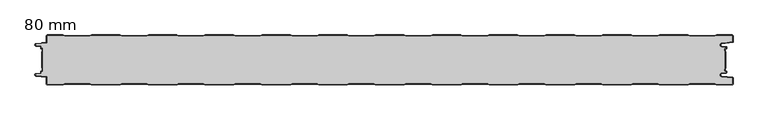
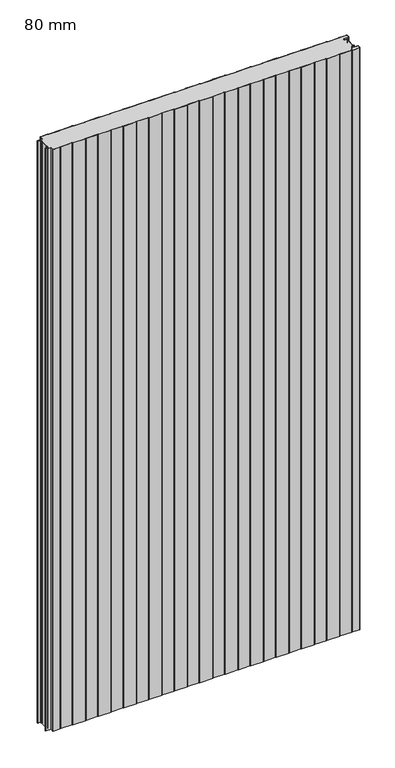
"""IFC4 building model written with IfcOpenShell, lengths in millimetres: plate geometry, HIANSA PANEL - H20.F03.001-PANEL FRIGORÍFICO - PANEL FRIGO - Panel de Muro Cortina : 80 mm."""

from ifc_helpers import new_model, si_unit, point, frame_2d, origin, origin_with_axes, place, context, project, spatial, polyline, circle_curve, trimmed, segment, composite_curve, outline, extrude, source, transform, mapped, element, save


def plate_80_mm_17309635(model_context):
    return source(origin(), model_context, "Body", "SweptSolid", [
        extrude(outline(polyline([(555.9827923, -54.0), (555.9827923, -26.0), (556.4221321, -26.6713576), (556.4221321, -53.3286424), (555.9827923, -54.0)])), origin_with_axes(), (0.0, 0.0, 1.0), 2200.0),
        extrude(outline(polyline([(-538.5172077, -25.9999999), (-538.5172077, -54.0000001), (-539.1172077, -52.9695032), (-539.1172077, -27.0304968), (-538.5172077, -25.9999999)])), origin_with_axes(), (0.0, 0.0, 1.0), 2200.0),
        extrude(outline(composite_curve([segment(polyline([(-370.9360691, -1.5), (-411.0983467, -1.5), (-414.0983467, -0.5), (-458.9360691, -0.5), (-461.9360691, -1.5), (-502.0983467, -1.5), (-505.0983467, -0.5), (-529.9172079, -0.5)]), True, "CONTINUOUS"), segment(trimmed(circle_curve(frame_2d((-529.9172079, -1.6)), 1.1), [point((-529.9172079, -0.5))], [point((-531.0172079, -1.6))], True, "CARTESIAN"), True, "CONTINUOUS"), segment(polyline([(-531.0172079, -1.6), (-531.0172079, -11.7987531)]), True, "CONTINUOUS"), segment(trimmed(circle_curve(frame_2d((-532.0172079, -11.7987531)), 1.0), [point((-531.0172079, -11.7987531))], [point((-531.9177042, -12.7937903))], False, "CARTESIAN"), True, "CONTINUOUS"), segment(polyline([(-531.9177042, -12.7937903), (-548.0592062, -14.4079404)]), True, "CONTINUOUS"), segment(trimmed(circle_curve(frame_2d((-547.9000002, -15.9999999)), 1.6), [point((-548.0592062, -14.4079404))], [point((-548.0592062, -17.5920594))], True, "CARTESIAN"), True, "CONTINUOUS"), segment(polyline([(-548.0592062, -17.5920594), (-541.4177042, -18.2562097)]), True, "CONTINUOUS"), segment(trimmed(circle_curve(frame_2d((-541.5172079, -19.2512469)), 1.0), [point((-541.4177042, -18.2562097))], [point((-540.5172079, -19.2512469))], False, "CARTESIAN"), True, "CONTINUOUS"), segment(polyline([(-540.5172079, -19.2512469), (-540.5172079, -21.5), (-539.0172079, -21.5)]), True, "CONTINUOUS"), segment(trimmed(circle_curve(frame_2d((-539.0172079, -22.5)), 1.0), [point((-539.0172079, -21.5))], [point((-538.0172079, -22.5))], False, "CARTESIAN"), True, "CONTINUOUS"), segment(polyline([(-538.0172079, -22.5), (-538.0172079, -25.1412526), (-538.5172079, -26.0), (-538.5172079, -22.0), (-540.0172079, -22.0)]), True, "CONTINUOUS"), segment(trimmed(circle_curve(frame_2d((-540.0172079, -21.0)), 1.0), [point((-540.0172079, -22.0))], [point((-541.0172079, -21.0))], False, "CARTESIAN"), True, "CONTINUOUS"), segment(polyline([(-541.0172079, -21.0), (-541.0172079, -18.7987531), (-548.1089579, -18.0895783)]), True, "CONTINUOUS"), segment(trimmed(circle_curve(frame_2d((-547.9000002, -16.0000002)), 2.1), [point((-548.1089579, -18.0895783))], [point((-548.108958, -13.9104221))], False, "CARTESIAN"), True, "CONTINUOUS"), segment(polyline([(-548.108958, -13.9104221), (-531.5172079, -12.2512469), (-531.5172079, -1.6)]), True, "CONTINUOUS"), segment(trimmed(circle_curve(frame_2d((-529.9172079, -1.6)), 1.6), [point((-531.5172079, -1.6))], [point((-529.9172079, 0.0))], False, "CARTESIAN"), True, "CONTINUOUS"), segment(polyline([(-529.9172079, 0.0), (-505.0172079, 0.0), (-502.0172079, -1.0), (-462.0172079, -1.0), (-459.0172079, 0.0), (-414.0172079, 0.0), (-411.0172079, -1.0), (-371.0172079, -1.0), (-368.0172079, 0.0), (-323.0172079, 0.0), (-320.0172079, -1.0), (-280.0172079, -1.0), (-277.0172079, 0.0), (-232.0172079, 0.0), (-229.0172079, -1.0), (-189.0172079, -1.0), (-186.0172079, 0.0), (-141.0172079, 0.0), (-138.0172079, -1.0), (-98.0172079, -1.0), (-95.0172079, 0.0), (-50.0172079, 0.0), (-47.0172079, -1.0), (-7.0172079, -1.0), (-4.0172079, 0.0), (40.9827921, 0.0), (43.9827921, -1.0), (83.9827921, -1.0), (86.9827921, 0.0), (131.9827921, 0.0), (134.9827921, -1.0), (174.9827921, -1.0), (177.9827921, 0.0), (222.9827921, 0.0), (225.9827921, -1.0), (265.9827921, -1.0), (268.9827921, 0.0), (313.9827921, 0.0), (316.9827921, -1.0), (356.9827921, -1.0), (359.9827921, 0.0), (404.9827921, 0.0), (407.9827921, -1.0), (447.9827921, -1.0), (450.9827921, 0.0), (495.9827921, 0.0), (498.9827921, -1.0), (538.9827921, -1.0), (541.9827921, 0.0), (566.8827921, 0.0)]), True, "CONTINUOUS"), segment(trimmed(circle_curve(frame_2d((566.8827921, -1.6)), 1.6), [point((566.8827921, 0.0))], [point((568.4827921, -1.6))], False, "CARTESIAN"), True, "CONTINUOUS"), segment(polyline([(568.4827921, -1.6), (568.4827921, -11.0950124)]), True, "CONTINUOUS"), segment(trimmed(circle_curve(frame_2d((567.4827921, -11.0950124)), 1.0), [point((568.4827921, -11.0950124))], [point((567.5822958, -12.0900496))], False, "CARTESIAN"), True, "CONTINUOUS"), segment(polyline([(567.5822958, -12.0900496), (550.2837847, -13.8199007)]), True, "CONTINUOUS"), segment(trimmed(circle_curve(frame_2d((550.5873461, -16.0)), 2.2011321), [point((550.2837847, -13.8199007))], [point((550.2837847, -18.1800993))], True, "CARTESIAN"), True, "CONTINUOUS"), segment(polyline([(550.2837847, -18.1800993), (557.5822958, -18.9099504)]), True, "CONTINUOUS"), segment(trimmed(circle_curve(frame_2d((557.4827921, -19.9049876)), 1.0), [point((557.5822958, -18.9099504))], [point((558.4827921, -19.9049876))], False, "CARTESIAN"), True, "CONTINUOUS"), segment(polyline([(558.4827921, -19.9049876), (558.4827921, -21.0)]), True, "CONTINUOUS"), segment(trimmed(circle_curve(frame_2d((557.4827921, -21.0)), 1.0), [point((558.4827921, -21.0))], [point((557.4827921, -22.0))], False, "CARTESIAN"), True, "CONTINUOUS"), segment(polyline([(557.4827921, -22.0), (555.9827921, -22.0), (555.9827921, -26.0), (555.4827921, -25.2359473), (555.4827921, -22.5)]), True, "CONTINUOUS"), segment(trimmed(circle_curve(frame_2d((556.4827921, -22.5)), 1.0), [point((555.4827921, -22.5))], [point((556.4827921, -21.5))], False, "CARTESIAN"), True, "CONTINUOUS"), segment(polyline([(556.4827921, -21.5), (557.9827921, -21.5), (557.9827921, -19.4524938), (550.2340328, -18.6776179)]), True, "CONTINUOUS"), segment(trimmed(circle_curve(frame_2d((550.5859823, -16.0)), 2.7006492), [point((550.2340328, -18.6776179))], [point((550.2340328, -13.3223821))], False, "CARTESIAN"), True, "CONTINUOUS"), segment(polyline([(550.2340328, -13.3223821), (567.9827921, -11.5475062), (567.9827921, -1.6)]), True, "CONTINUOUS"), segment(trimmed(circle_curve(frame_2d((566.8827921, -1.6)), 1.1), [point((567.9827921, -1.6))], [point((566.8827921, -0.5))], True, "CARTESIAN"), True, "CONTINUOUS"), segment(polyline([(566.8827921, -0.5), (542.0639309, -0.5), (539.0639309, -1.5), (498.9016533, -1.5), (495.9016533, -0.5), (451.0639309, -0.5), (448.0639309, -1.5), (407.9016533, -1.5), (404.9016533, -0.5), (360.0639309, -0.5), (357.0639309, -1.5), (316.9016533, -1.5), (313.9016533, -0.5), (269.0639309, -0.5), (266.0639309, -1.5), (225.9016533, -1.5), (222.9016533, -0.5), (178.0639309, -0.5), (175.0639309, -1.5), (134.9016533, -1.5), (131.9016533, -0.5), (87.0639309, -0.5), (84.0639309, -1.5), (43.9016533, -1.5), (40.9016533, -0.5), (-3.9360691, -0.5), (-6.9360691, -1.5), (-47.0983467, -1.5), (-50.0983467, -0.5), (-94.9360691, -0.5), (-97.9360691, -1.5), (-138.0983467, -1.5), (-141.0983467, -0.5), (-185.9360691, -0.5), (-188.9360691, -1.5), (-229.0983467, -1.5), (-232.0983467, -0.5), (-276.9360691, -0.5), (-279.9360691, -1.5), (-320.0983467, -1.5), (-323.0983467, -0.5), (-367.9360691, -0.5), (-370.9360691, -1.5)]), True, "CONTINUOUS")], self_intersect=False)), origin_with_axes(), (0.0, 0.0, 1.0), 2200.0),
        extrude(outline(composite_curve([segment(polyline([(-370.9360691, -78.5), (-367.9360691, -79.5), (-323.0983467, -79.5), (-320.0983467, -78.5), (-279.9360691, -78.5), (-276.9360691, -79.5), (-232.0983467, -79.5), (-229.0983467, -78.5), (-188.9360691, -78.5), (-185.9360691, -79.5), (-141.0983467, -79.5), (-138.0983467, -78.5), (-97.9360691, -78.5), (-94.9360691, -79.5), (-50.0983467, -79.5), (-47.0983467, -78.5), (-6.9360691, -78.5), (-3.9360691, -79.5), (40.9016533, -79.5), (43.9016533, -78.5), (84.0639309, -78.5), (87.0639309, -79.5), (131.9016533, -79.5), (134.9016533, -78.5), (175.0639309, -78.5), (178.0639309, -79.5), (222.9016533, -79.5), (225.9016533, -78.5), (266.0639309, -78.5), (269.0639309, -79.5), (313.9016533, -79.5), (316.9016533, -78.5), (357.0639309, -78.5), (360.0639309, -79.5), (404.9016533, -79.5), (407.9016533, -78.5), (448.0639309, -78.5), (451.0639309, -79.5), (495.9016533, -79.5), (498.9016533, -78.5), (539.0639309, -78.5), (542.0639309, -79.5), (566.8827921, -79.5)]), True, "CONTINUOUS"), segment(trimmed(circle_curve(frame_2d((566.8827921, -78.4)), 1.1), [point((566.8827921, -79.5))], [point((567.9827921, -78.4))], True, "CARTESIAN"), True, "CONTINUOUS"), segment(polyline([(567.9827921, -78.4), (567.9827921, -68.4524938), (550.2340328, -66.6776179)]), True, "CONTINUOUS"), segment(trimmed(circle_curve(frame_2d((550.5859823, -64.0)), 2.7006492), [point((550.2340328, -66.6776179))], [point((550.2340328, -61.3223821))], False, "CARTESIAN"), True, "CONTINUOUS"), segment(polyline([(550.2340328, -61.3223821), (557.9827921, -60.5475062), (557.9827921, -58.5), (556.4827921, -58.5)]), True, "CONTINUOUS"), segment(trimmed(circle_curve(frame_2d((556.4827921, -57.5)), 1.0), [point((556.4827921, -58.5))], [point((555.4827921, -57.5))], False, "CARTESIAN"), True, "CONTINUOUS"), segment(polyline([(555.4827921, -57.5), (555.4827921, -54.7640527), (555.9827921, -54.0), (555.9827921, -58.0), (557.4827921, -58.0)]), True, "CONTINUOUS"), segment(trimmed(circle_curve(frame_2d((557.4827921, -59.0)), 1.0), [point((557.4827921, -58.0))], [point((558.4827921, -59.0))], False, "CARTESIAN"), True, "CONTINUOUS"), segment(polyline([(558.4827921, -59.0), (558.4827921, -60.0950124)]), True, "CONTINUOUS"), segment(trimmed(circle_curve(frame_2d((557.4827921, -60.0950124)), 1.0), [point((558.4827921, -60.0950124))], [point((557.5822958, -61.0900496))], False, "CARTESIAN"), True, "CONTINUOUS"), segment(polyline([(557.5822958, -61.0900496), (550.2837847, -61.8199007)]), True, "CONTINUOUS"), segment(trimmed(circle_curve(frame_2d((550.5873461, -64.0)), 2.2011321), [point((550.2837847, -61.8199007))], [point((550.2837847, -66.1800993))], True, "CARTESIAN"), True, "CONTINUOUS"), segment(polyline([(550.2837847, -66.1800993), (567.5822958, -67.9099504)]), True, "CONTINUOUS"), segment(trimmed(circle_curve(frame_2d((567.4827921, -68.9049876)), 1.0), [point((567.5822958, -67.9099504))], [point((568.4827921, -68.9049876))], False, "CARTESIAN"), True, "CONTINUOUS"), segment(polyline([(568.4827921, -68.9049876), (568.4827921, -78.4)]), True, "CONTINUOUS"), segment(trimmed(circle_curve(frame_2d((566.8827921, -78.4)), 1.6), [point((568.4827921, -78.4))], [point((566.8827921, -80.0))], False, "CARTESIAN"), True, "CONTINUOUS"), segment(polyline([(566.8827921, -80.0), (541.9827921, -80.0), (538.9827921, -79.0), (498.9827921, -79.0), (495.9827921, -80.0), (450.9827921, -80.0), (447.9827921, -79.0), (407.9827921, -79.0), (404.9827921, -80.0), (359.9827921, -80.0), (356.9827921, -79.0), (316.9827921, -79.0), (313.9827921, -80.0), (268.9827921, -80.0), (265.9827921, -79.0), (225.9827921, -79.0), (222.9827921, -80.0), (177.9827921, -80.0), (174.9827921, -79.0), (134.9827921, -79.0), (131.9827921, -80.0), (86.9827921, -80.0), (83.9827921, -79.0), (43.9827921, -79.0), (40.9827921, -80.0), (-4.0172079, -80.0), (-7.0172079, -79.0), (-47.0172079, -79.0), (-50.0172079, -80.0), (-95.0172079, -80.0), (-98.0172079, -79.0), (-138.0172079, -79.0), (-141.0172079, -80.0), (-186.0172079, -80.0), (-189.0172079, -79.0), (-229.0172079, -79.0), (-232.0172079, -80.0), (-277.0172079, -80.0), (-280.0172079, -79.0), (-320.0172079, -79.0), (-323.0172079, -80.0), (-368.0172079, -80.0), (-371.0172079, -79.0), (-411.0172079, -79.0), (-414.0172079, -80.0), (-459.0172079, -80.0), (-462.0172079, -79.0), (-502.0172079, -79.0), (-505.0172079, -80.0), (-529.9172079, -80.0)]), True, "CONTINUOUS"), segment(trimmed(circle_curve(frame_2d((-529.9172079, -78.4)), 1.6), [point((-529.9172079, -80.0))], [point((-531.5172079, -78.4))], False, "CARTESIAN"), True, "CONTINUOUS"), segment(polyline([(-531.5172079, -78.4), (-531.5172079, -67.7487531), (-548.108958, -66.0895779)]), True, "CONTINUOUS"), segment(trimmed(circle_curve(frame_2d((-547.9000002, -63.9999998)), 2.1), [point((-548.108958, -66.0895779))], [point((-548.1089579, -61.9104217))], False, "CARTESIAN"), True, "CONTINUOUS"), segment(polyline([(-548.1089579, -61.9104217), (-541.0172079, -61.2012469), (-541.0172079, -59.0)]), True, "CONTINUOUS"), segment(trimmed(circle_curve(frame_2d((-540.0172079, -59.0)), 1.0), [point((-541.0172079, -59.0))], [point((-540.0172079, -58.0))], False, "CARTESIAN"), True, "CONTINUOUS"), segment(polyline([(-540.0172079, -58.0), (-538.5172079, -58.0), (-538.5172079, -54.0), (-538.0172079, -54.8587474), (-538.0172079, -57.5)]), True, "CONTINUOUS"), segment(trimmed(circle_curve(frame_2d((-539.0172079, -57.5)), 1.0), [point((-538.0172079, -57.5))], [point((-539.0172079, -58.5))], False, "CARTESIAN"), True, "CONTINUOUS"), segment(polyline([(-539.0172079, -58.5), (-540.5172079, -58.5), (-540.5172079, -60.7487531)]), True, "CONTINUOUS"), segment(trimmed(circle_curve(frame_2d((-541.5172079, -60.7487531)), 1.0), [point((-540.5172079, -60.7487531))], [point((-541.4177042, -61.7437903))], False, "CARTESIAN"), True, "CONTINUOUS"), segment(polyline([(-541.4177042, -61.7437903), (-548.0592062, -62.4079406)]), True, "CONTINUOUS"), segment(trimmed(circle_curve(frame_2d((-547.9000002, -64.0000001)), 1.6), [point((-548.0592062, -62.4079406))], [point((-548.0592062, -65.5920596))], True, "CARTESIAN"), True, "CONTINUOUS"), segment(polyline([(-548.0592062, -65.5920596), (-531.9177042, -67.2062097)]), True, "CONTINUOUS"), segment(trimmed(circle_curve(frame_2d((-532.0172079, -68.2012469)), 1.0), [point((-531.9177042, -67.2062097))], [point((-531.0172079, -68.2012469))], False, "CARTESIAN"), True, "CONTINUOUS"), segment(polyline([(-531.0172079, -68.2012469), (-531.0172079, -78.4)]), True, "CONTINUOUS"), segment(trimmed(circle_curve(frame_2d((-529.9172079, -78.4)), 1.1), [point((-531.0172079, -78.4))], [point((-529.9172079, -79.5))], True, "CARTESIAN"), True, "CONTINUOUS"), segment(polyline([(-529.9172079, -79.5), (-505.0983467, -79.5), (-502.0983467, -78.5), (-461.9360691, -78.5), (-458.9360691, -79.5), (-414.0983467, -79.5), (-411.0983467, -78.5), (-370.9360691, -78.5)]), True, "CONTINUOUS")], self_intersect=False)), origin_with_axes(), (0.0, 0.0, 1.0), 2200.0),
        extrude(outline(composite_curve([segment(polyline([(-461.936069, -1.5), (-458.936069, -0.5), (-414.0983467, -0.5), (-411.0983467, -1.5), (-370.936069, -1.5), (-367.936069, -0.5), (-323.0983467, -0.5), (-320.0983467, -1.5), (-279.936069, -1.5), (-276.936069, -0.5), (-232.0983467, -0.5), (-229.0983467, -1.5), (-188.936069, -1.5), (-185.936069, -0.5), (-141.0983467, -0.5), (-138.0983467, -1.5), (-97.936069, -1.5), (-94.936069, -0.5), (-50.0983467, -0.5), (-47.0983467, -1.5), (-6.936069, -1.5), (-3.936069, -0.5), (40.9016533, -0.5), (43.9016533, -1.5), (84.063931, -1.5), (87.063931, -0.5), (131.9016533, -0.5), (134.9016533, -1.5), (175.063931, -1.5), (178.063931, -0.5), (222.9016533, -0.5), (225.9016533, -1.5), (266.063931, -1.5), (269.063931, -0.5), (313.9016533, -0.5), (316.9016533, -1.5), (357.063931, -1.5), (360.063931, -0.5), (404.9016533, -0.5), (407.9016533, -1.5), (448.063931, -1.5), (451.063931, -0.5), (495.9016533, -0.5), (498.9016533, -1.5), (539.063931, -1.5), (542.063931, -0.5), (566.8827921, -0.5)]), True, "CONTINUOUS"), segment(trimmed(circle_curve(frame_2d((566.8827921, -1.6)), 1.1), [point((566.8827921, -0.5))], [point((567.9827921, -1.6))], False, "CARTESIAN"), True, "CONTINUOUS"), segment(polyline([(567.9827921, -1.6), (567.9827921, -11.5475062), (550.2340328, -13.3223821)]), True, "CONTINUOUS"), segment(trimmed(circle_curve(frame_2d((550.5859824, -16.0)), 2.7006492), [point((550.2340328, -13.3223821))], [point((550.2340328, -18.6776179))], True, "CARTESIAN"), True, "CONTINUOUS"), segment(polyline([(550.2340328, -18.6776179), (557.9827921, -19.4524938), (557.9827921, -21.5), (556.4827921, -21.5)]), True, "CONTINUOUS"), segment(trimmed(circle_curve(frame_2d((556.4827921, -22.5)), 1.0), [point((556.4827921, -21.5))], [point((555.4827921, -22.5))], True, "CARTESIAN"), True, "CONTINUOUS"), segment(polyline([(555.4827921, -22.5), (555.4827921, -25.2359473), (555.9827921, -26.0), (555.9827921, -54.0), (555.4827921, -54.7640527), (555.4827921, -57.5)]), True, "CONTINUOUS"), segment(trimmed(circle_curve(frame_2d((556.4827921, -57.5)), 1.0), [point((555.4827921, -57.5))], [point((556.4827921, -58.5))], True, "CARTESIAN"), True, "CONTINUOUS"), segment(polyline([(556.4827921, -58.5), (557.9827921, -58.5), (557.9827921, -60.5475062), (550.2340328, -61.3223821)]), True, "CONTINUOUS"), segment(trimmed(circle_curve(frame_2d((550.5859824, -64.0)), 2.7006492), [point((550.2340328, -61.3223821))], [point((550.2340328, -66.6776179))], True, "CARTESIAN"), True, "CONTINUOUS"), segment(polyline([(550.2340328, -66.6776179), (567.9827921, -68.4524938), (567.9827921, -78.4)]), True, "CONTINUOUS"), segment(trimmed(circle_curve(frame_2d((566.8827921, -78.4)), 1.1), [point((567.9827921, -78.4))], [point((566.8827921, -79.5))], False, "CARTESIAN"), True, "CONTINUOUS"), segment(polyline([(566.8827921, -79.5), (542.063931, -79.5), (539.063931, -78.5), (498.9016533, -78.5), (495.9016533, -79.5), (451.063931, -79.5), (448.063931, -78.5), (407.9016533, -78.5), (404.9016533, -79.5), (360.063931, -79.5), (357.063931, -78.5), (316.9016533, -78.5), (313.9016533, -79.5), (269.063931, -79.5), (266.063931, -78.5), (225.9016533, -78.5), (222.9016533, -79.5), (178.063931, -79.5), (175.063931, -78.5), (134.9016533, -78.5), (131.9016533, -79.5), (87.063931, -79.5), (84.063931, -78.5), (43.9016533, -78.5), (40.9016533, -79.5), (-3.936069, -79.5), (-6.936069, -78.5), (-47.0983467, -78.5), (-50.0983467, -79.5), (-94.936069, -79.5), (-97.936069, -78.5), (-138.0983467, -78.5), (-141.0983467, -79.5), (-185.936069, -79.5), (-188.936069, -78.5), (-229.0983467, -78.5), (-232.0983467, -79.5), (-276.936069, -79.5), (-279.936069, -78.5), (-320.0983467, -78.5), (-323.0983467, -79.5), (-367.936069, -79.5), (-370.936069, -78.5), (-411.0983467, -78.5), (-414.0983467, -79.5), (-458.936069, -79.5), (-461.936069, -78.5), (-502.0983467, -78.5), (-505.0983467, -79.5), (-529.9172079, -79.5)]), True, "CONTINUOUS"), segment(trimmed(circle_curve(frame_2d((-529.9172079, -78.4)), 1.1), [point((-529.9172079, -79.5))], [point((-531.0172079, -78.4))], False, "CARTESIAN"), True, "CONTINUOUS"), segment(polyline([(-531.0172079, -78.4), (-531.0172079, -68.2012469)]), True, "CONTINUOUS"), segment(trimmed(circle_curve(frame_2d((-532.0172079, -68.2012469)), 1.0), [point((-531.0172079, -68.2012469))], [point((-531.9177042, -67.2062097))], True, "CARTESIAN"), True, "CONTINUOUS"), segment(polyline([(-531.9177042, -67.2062097), (-548.0592062, -65.5920596)]), True, "CONTINUOUS"), segment(trimmed(circle_curve(frame_2d((-547.9000002, -64.0000001)), 1.6), [point((-548.0592062, -65.5920596))], [point((-548.0592062, -62.4079406))], False, "CARTESIAN"), True, "CONTINUOUS"), segment(polyline([(-548.0592062, -62.4079406), (-541.4177041, -61.7437903)]), True, "CONTINUOUS"), segment(trimmed(circle_curve(frame_2d((-541.5172079, -60.7487531)), 1.0), [point((-541.4177041, -61.7437903))], [point((-540.5172079, -60.7487531))], True, "CARTESIAN"), True, "CONTINUOUS"), segment(polyline([(-540.5172079, -60.7487531), (-540.5172079, -58.5), (-539.0172079, -58.5)]), True, "CONTINUOUS"), segment(trimmed(circle_curve(frame_2d((-539.0172079, -57.5)), 1.0), [point((-539.0172079, -58.5))], [point((-538.0172079, -57.5))], True, "CARTESIAN"), True, "CONTINUOUS"), segment(polyline([(-538.0172079, -57.5), (-538.0172079, -54.8587474), (-538.5172079, -54.0), (-538.5172079, -26.0), (-538.0172079, -25.1412526), (-538.0172079, -22.5)]), True, "CONTINUOUS"), segment(trimmed(circle_curve(frame_2d((-539.0172079, -22.5)), 1.0), [point((-538.0172079, -22.5))], [point((-539.0172079, -21.5))], True, "CARTESIAN"), True, "CONTINUOUS"), segment(polyline([(-539.0172079, -21.5), (-540.5172079, -21.5), (-540.5172079, -19.2512469)]), True, "CONTINUOUS"), segment(trimmed(circle_curve(frame_2d((-541.5172079, -19.2512469)), 1.0), [point((-540.5172079, -19.2512469))], [point((-541.4177041, -18.2562097))], True, "CARTESIAN"), True, "CONTINUOUS"), segment(polyline([(-541.4177041, -18.2562097), (-548.0592062, -17.5920594)]), True, "CONTINUOUS"), segment(trimmed(circle_curve(frame_2d((-547.9000003, -15.9999999)), 1.6), [point((-548.0592062, -17.5920594))], [point((-548.0592062, -14.4079404))], False, "CARTESIAN"), True, "CONTINUOUS"), segment(polyline([(-548.0592062, -14.4079404), (-531.9177042, -12.7937903)]), True, "CONTINUOUS"), segment(trimmed(circle_curve(frame_2d((-532.0172079, -11.7987531)), 1.0), [point((-531.9177042, -12.7937903))], [point((-531.0172079, -11.7987531))], True, "CARTESIAN"), True, "CONTINUOUS"), segment(polyline([(-531.0172079, -11.7987531), (-531.0172079, -1.6)]), True, "CONTINUOUS"), segment(trimmed(circle_curve(frame_2d((-529.9172079, -1.6)), 1.1), [point((-531.0172079, -1.6))], [point((-529.9172079, -0.5))], False, "CARTESIAN"), True, "CONTINUOUS"), segment(polyline([(-529.9172079, -0.5), (-505.0983467, -0.5), (-502.0983467, -1.5), (-461.936069, -1.5)]), True, "CONTINUOUS")], self_intersect=False)), origin_with_axes(), (0.0, 0.0, 1.0), 2200.0),
    ])


if __name__ == "__main__":
    model = new_model("IFC4")
    model_context = context("Model", 3, world=origin())
    ifc_project = project(units=[si_unit("LENGTHUNIT", "METRE", prefix="MILLI")], contexts=[model_context])
    site = spatial("IfcSite", under=ifc_project)
    building = spatial("IfcBuilding", under=site)
    placement = place(None, origin())
    plate_80_mm_shape = plate_80_mm_17309635(model_context)
    element("IfcPlate", 1, ObjectType="HIANSA PANEL - H20.F03.001-PANEL FRIGORÍFICO - PANEL FRIGO - Panel de Muro Cortina : 80 mm", at=placement, inside=building, context=model_context, shape_type="MappedRepresentation", body=[
        mapped(plate_80_mm_shape, transform((0.0, 0.0, 0.0), x_axis=(1.0, 0.0, 0.0), y_axis=(0.0, 1.0, 0.0), z_axis=(0.0, 0.0, 1.0))),
    ])
    save(model, "model.ifc")
